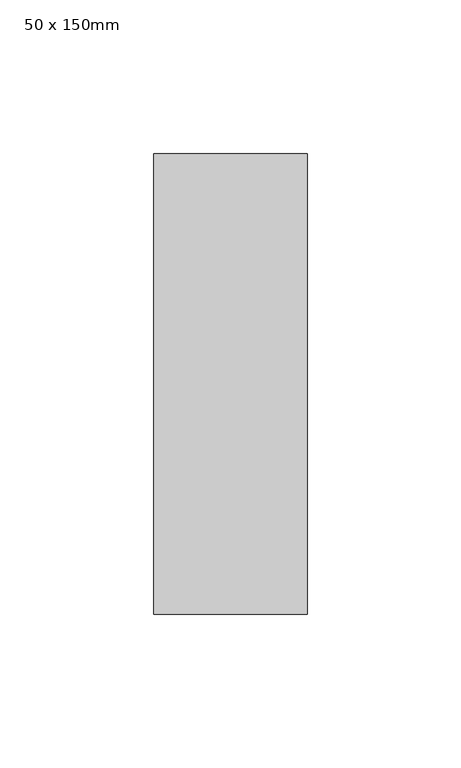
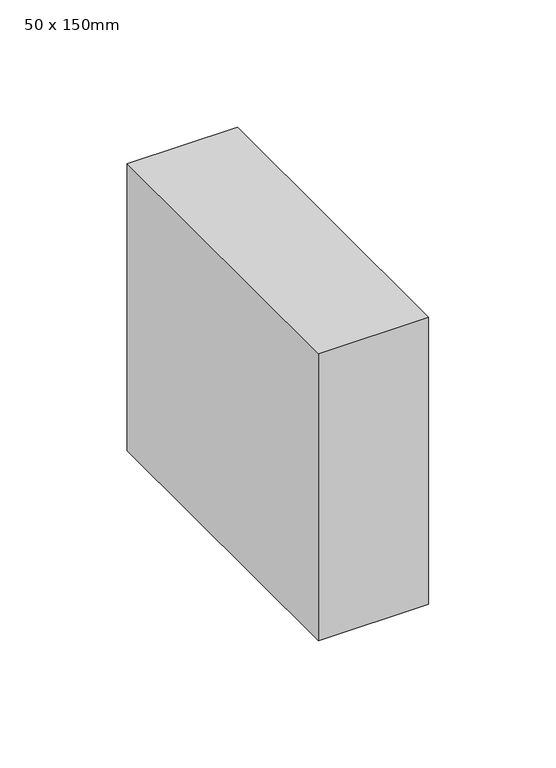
"""IFC4 building model written with IfcOpenShell, lengths in millimetres: member geometry, Прямоугольный импост : 50 x 150mm."""

import ifcopenshell
import ifcopenshell.guid

model = None  # the IFC model being written
_history = None  # IfcOwnerHistory: only IFC2X3 demands one
_inside = {}  # id of a spatial element -> (the spatial element, [elements in it])
_under = {}  # id of a project, library or spatial element -> (it, [spatial elements below it])
_declared = {}  # id of a project -> (the project, [libraries it declares])
_typed = {}  # id of a type object -> (the type object, [elements of that type])
_made_of = {}  # id of a material, layer set ... -> (it, [elements and type objects made of it])


def new_model(schema):
    """Start an empty IFC model of exactly this schema.

    Asked for "IFC4X3", IfcOpenShell would pick the latest addendum, in which some entities
    have other attributes; the version numbers below select the first issue.
    IFC2X3 requires an IfcOwnerHistory on every rooted entity: one is made here for all.
    """
    global model, _history
    if schema == "IFC4X3":
        model = ifcopenshell.file(schema_version=(4, 3, 0, 0))
    else:
        model = ifcopenshell.file(schema=schema)
    _inside.clear()
    _under.clear()
    _declared.clear()
    _typed.clear()
    _made_of.clear()
    _history = None
    if model.schema == "IFC2X3":
        org = make("IfcOrganization", Name="unknown")
        user = make(
            "IfcPersonAndOrganization",
            ThePerson=make("IfcPerson", FamilyName="unknown"),
            TheOrganization=org,
        )
        app = make(
            "IfcApplication",
            ApplicationDeveloper=org,
            Version="unknown",
            ApplicationFullName="unknown",
            ApplicationIdentifier="unknown",
        )
        _history = make(
            "IfcOwnerHistory",
            OwningUser=user,
            OwningApplication=app,
            ChangeAction="ADDED",
            CreationDate=0,
        )
    return model


def make(cls, **values):
    """One entity of the class cls with the attributes given. An attribute that is None is left unset."""
    return model.create_entity(
        cls, **{name: value for name, value in values.items() if value is not None}
    )


def rooted(cls, **values):
    """An entity with a GlobalId (a new one), such as an element, a storey or a relation."""
    return make(cls, GlobalId=ifcopenshell.guid.new(), OwnerHistory=_history, **values)


def si_unit(unit_type, name, prefix=None):
    """IfcSIUnit, for example si_unit("LENGTHUNIT", "METRE", prefix="MILLI")."""
    return make("IfcSIUnit", UnitType=unit_type, Prefix=prefix, Name=name)


def assignment(units):
    """IfcUnitAssignment: the units of a project."""
    return None if units is None else make("IfcUnitAssignment", Units=units)


def point(xyz):
    """IfcCartesianPoint."""
    return None if xyz is None else make("IfcCartesianPoint", Coordinates=xyz)


def direction(xyz):
    """IfcDirection."""
    return None if xyz is None else make("IfcDirection", DirectionRatios=xyz)


def frame(location, z_axis=None, x_axis=None):
    """IfcAxis2Placement3D, a coordinate frame: its origin and axes. An axis left out is left unset."""
    return make(
        "IfcAxis2Placement3D",
        Location=point(location),
        Axis=direction(z_axis),
        RefDirection=direction(x_axis),
    )


def origin():
    """The frame at (0, 0, 0) with its axes left unset."""
    return frame((0.0, 0.0, 0.0))


def place(relative_to, where):
    """IfcLocalPlacement: puts the frame where relative to a parent placement (None: the world)."""
    return make(
        "IfcLocalPlacement", PlacementRelTo=relative_to, RelativePlacement=where
    )


def context(
    kind, dimensions, precision=None, world=None, true_north=None, identifier=None
):
    """IfcGeometricRepresentationContext, for example the 3D "Model" context."""
    return make(
        "IfcGeometricRepresentationContext",
        ContextIdentifier=identifier,
        ContextType=kind,
        CoordinateSpaceDimension=dimensions,
        Precision=precision,
        WorldCoordinateSystem=world,
        TrueNorth=true_north,
    )


def project(units=None, contexts=None):
    """IfcProject with its units and contexts."""
    return rooted(
        "IfcProject",
        Name="project",
        RepresentationContexts=contexts,
        UnitsInContext=assignment(units),
    )


def spatial(cls, under=None, at=None, **own):
    """A site, building, storey or space (cls), placed at a placement, below another one or the project."""
    s = rooted(cls, ObjectPlacement=at, **own)
    if under is not None:
        _under.setdefault(under.id(), (under, []))[1].append(s)
    return s


def polyline(points):
    """IfcPolyline through the points."""
    return make("IfcPolyline", Points=[point(p) for p in points])


def outline(outer, holes=None, kind="AREA"):
    """IfcArbitraryClosedProfileDef: a profile drawn as a closed curve; with holes, ...WithVoids."""
    if holes is None:
        return make("IfcArbitraryClosedProfileDef", ProfileType=kind, OuterCurve=outer)
    return make(
        "IfcArbitraryProfileDefWithVoids",
        ProfileType=kind,
        OuterCurve=outer,
        InnerCurves=holes,
    )


def extrude(swept, where, along, depth):
    """IfcExtrudedAreaSolid: the profile swept, set in the frame where, extruded along a direction by depth."""
    return make(
        "IfcExtrudedAreaSolid",
        SweptArea=swept,
        Position=where,
        ExtrudedDirection=direction(along),
        Depth=depth,
    )


def shape(context_of_items, identifier, shape_type, items):
    """IfcShapeRepresentation: the items that make up one representation, for example the "Body"."""
    return make(
        "IfcShapeRepresentation",
        ContextOfItems=context_of_items,
        RepresentationIdentifier=identifier,
        RepresentationType=shape_type,
        Items=items,
    )


def source(mapping_origin, context_of_items, identifier, shape_type, items):
    """IfcRepresentationMap: a shape defined once, which mapped items show again and again."""
    return make(
        "IfcRepresentationMap",
        MappingOrigin=mapping_origin,
        MappedRepresentation=shape(context_of_items, identifier, shape_type, items),
    )


def transform(
    local_origin,
    x_axis=None,
    y_axis=None,
    z_axis=None,
    scale=None,
    scale2=None,
    scale3=None,
    uniform=True,
):
    """IfcCartesianTransformationOperator3D, or its non-uniform kind. x_axis, y_axis, z_axis: its Axis1, 2, 3."""
    if uniform:
        return make(
            "IfcCartesianTransformationOperator3D",
            Axis1=direction(x_axis),
            Axis2=direction(y_axis),
            LocalOrigin=point(local_origin),
            Scale=scale,
            Axis3=direction(z_axis),
        )
    return make(
        "IfcCartesianTransformationOperator3DnonUniform",
        Axis1=direction(x_axis),
        Axis2=direction(y_axis),
        LocalOrigin=point(local_origin),
        Scale=scale,
        Axis3=direction(z_axis),
        Scale2=scale2,
        Scale3=scale3,
    )


def mapped(mapping_source, mapping_target):
    """IfcMappedItem: shows the shape of a source again, moved by a transform."""
    return make(
        "IfcMappedItem", MappingSource=mapping_source, MappingTarget=mapping_target
    )


def made_of(thing, what):
    """Note that an element or type object is made of a material, layer set ...; save() writes the relation."""
    if what is not None:
        _made_of.setdefault(what.id(), (what, []))[1].append(thing)
    return thing


def element(
    cls,
    number,
    at=None,
    inside=None,
    cuts=None,
    type_object=None,
    material=None,
    context=None,
    identifier="Body",
    shape_type=None,
    held_by="IfcProductDefinitionShape",
    body=None,
    shapes=None,
    **own,
):
    """One element of the class cls, such as IfcWall. Its Tag is "e" and its number.

    at: its placement. inside: the storey or other place that contains it. cuts: it is an
    opening in that element (IfcRelVoidsElement). A single representation is given by context,
    identifier, shape_type and body (its items); several are given by shapes. held_by: the class
    of the entity that holds the representations. save() writes the other relations.
    """
    e = rooted(cls, Tag="e%d" % number, ObjectPlacement=at, **own)
    if body is not None:
        shapes = [shape(context, identifier, shape_type, body)]
    if shapes is not None:
        e.Representation = make(held_by, Representations=shapes)
    if inside is not None:
        _inside.setdefault(inside.id(), (inside, []))[1].append(e)
    if cuts is not None:
        rooted(
            "IfcRelVoidsElement", RelatingBuildingElement=cuts, RelatedOpeningElement=e
        )
    if type_object is not None:
        _typed.setdefault(type_object.id(), (type_object, []))[1].append(e)
    return made_of(e, material)


def aggregate(whole, parts):
    """IfcRelAggregates: a whole, such as a stair, and the parts it consists of."""
    return rooted("IfcRelAggregates", RelatingObject=whole, RelatedObjects=parts)


def save(model, path):
    """Write the relations noted so far, then the file.

    IfcRelAggregates (storeys below a building ...), IfcRelContainedInSpatialStructure (elements
    in a storey), IfcRelDefinesByType, IfcRelAssociatesMaterial and IfcRelDeclares: one each for
    every whole, place, type object, material and project.
    """
    for whole, parts in _under.values():
        aggregate(whole, parts)
    for where, things in _inside.values():
        rooted(
            "IfcRelContainedInSpatialStructure",
            RelatedElements=things,
            RelatingStructure=where,
        )
    for kind, things in _typed.values():
        rooted("IfcRelDefinesByType", RelatedObjects=things, RelatingType=kind)
    for what, things in _made_of.values():
        rooted("IfcRelAssociatesMaterial", RelatedObjects=things, RelatingMaterial=what)
    for by, libraries in _declared.values():
        rooted("IfcRelDeclares", RelatingContext=by, RelatedDefinitions=libraries)
    model.write(path)


def member_50_x_150mm_871c2860(model_context):
    return source(origin(), model_context, "Body", "SweptSolid", [
        extrude(outline(polyline([(0.0, 75.0), (0.0, -75.0), (-50.0, -75.0), (-50.0, 75.0), (0.0, 75.0)])), frame((0.0, 0.0, -137.3), z_axis=(0.0, 0.0, 1.0), x_axis=(1.0, 0.0, 0.0)), (0.0, 0.0, 1.0), 137.3),
    ])


if __name__ == "__main__":
    model = new_model("IFC4")
    model_context = context("Model", 3, world=origin())
    ifc_project = project(units=[si_unit("LENGTHUNIT", "METRE", prefix="MILLI")], contexts=[model_context])
    site = spatial("IfcSite", under=ifc_project)
    building = spatial("IfcBuilding", under=site)
    placement = place(None, origin())
    member_50_x_150mm_shape = member_50_x_150mm_871c2860(model_context)
    element("IfcMember", 1, ObjectType="Прямоугольный импост : 50 x 150mm", at=placement, inside=building, context=model_context, shape_type="MappedRepresentation", body=[
        mapped(member_50_x_150mm_shape, transform((0.0, 0.0, 0.0), x_axis=(1.0, 0.0, 0.0), y_axis=(0.0, 1.0, 0.0), z_axis=(0.0, 0.0, 1.0))),
    ])
    save(model, "model.ifc")
